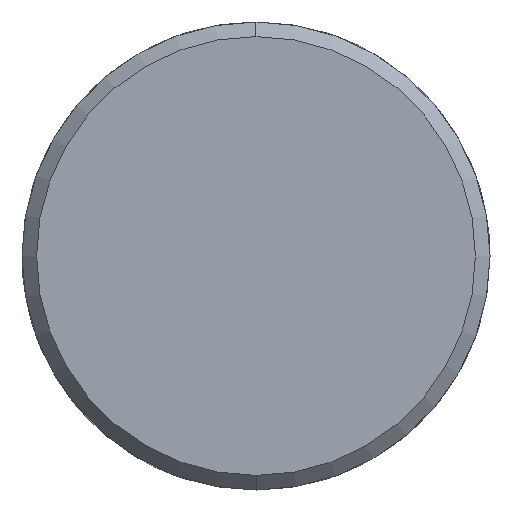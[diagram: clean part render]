
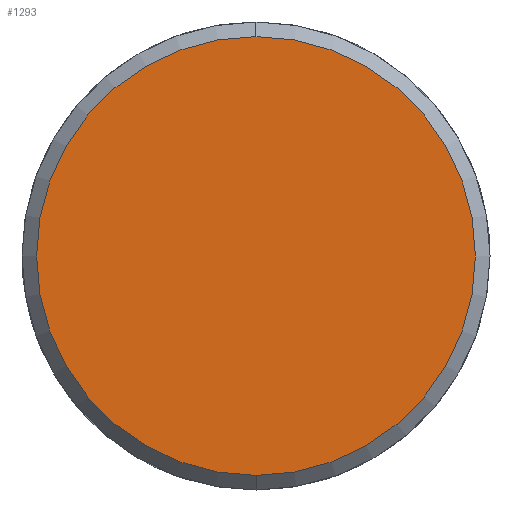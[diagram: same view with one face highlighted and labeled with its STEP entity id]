
A CAD part, left-side view. The second image highlights one B-rep face of the part: STEP entity #1293.
In plain terms, the highlighted planar face has unit normal (-1, 0, 0).
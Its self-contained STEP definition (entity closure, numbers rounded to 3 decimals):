
#1225=CARTESIAN_POINT('Vertex',(-6.,0.,-15.)) ;
#1228=CARTESIAN_POINT('Axis2P3D Location',(-6.,0.,0.)) ;
#1232=CARTESIAN_POINT('Vertex',(-6.,15.,0.)) ;
#1235=CARTESIAN_POINT('Axis2P3D Location',(-6.,0.,0.)) ;
#1239=CARTESIAN_POINT('Vertex',(-6.,0.,15.)) ;
#1261=CARTESIAN_POINT('Axis2P3D Location',(-6.,0.,0.)) ;
#1265=CARTESIAN_POINT('Vertex',(-6.,-15.,0.)) ;
#1268=CARTESIAN_POINT('Axis2P3D Location',(-6.,0.,0.)) ;
#1282=CARTESIAN_POINT('Axis2P3D Location',(-6.,0.,0.)) ;
#1229=DIRECTION('Axis2P3D Direction',(1.,0.,-0.)) ;
#1236=DIRECTION('Axis2P3D Direction',(1.,0.,-0.)) ;
#1262=DIRECTION('Axis2P3D Direction',(1.,0.,-0.)) ;
#1269=DIRECTION('Axis2P3D Direction',(1.,0.,-0.)) ;
#1283=DIRECTION('Axis2P3D Direction',(1.,0.,-0.)) ;
#1284=DIRECTION('Axis2P3D XDirection',(-0.,0.,-1.)) ;
#1230=AXIS2_PLACEMENT_3D('Circle Axis2P3D',#1228,#1229,$) ;
#1237=AXIS2_PLACEMENT_3D('Circle Axis2P3D',#1235,#1236,$) ;
#1263=AXIS2_PLACEMENT_3D('Circle Axis2P3D',#1261,#1262,$) ;
#1270=AXIS2_PLACEMENT_3D('Circle Axis2P3D',#1268,#1269,$) ;
#1285=AXIS2_PLACEMENT_3D('Plane Axis2P3D',#1282,#1283,#1284) ;
#1288=ORIENTED_EDGE('',*,*,#1234,.F.) ;
#1289=ORIENTED_EDGE('',*,*,#1272,.F.) ;
#1290=ORIENTED_EDGE('',*,*,#1267,.F.) ;
#1291=ORIENTED_EDGE('',*,*,#1241,.F.) ;
#1293=ADVANCED_FACE('351-20X26X90',(#1292),#1286,.F.) ;
#1231=CIRCLE('generated circle',#1230,15.) ;
#1238=CIRCLE('generated circle',#1237,15.) ;
#1264=CIRCLE('generated circle',#1263,15.) ;
#1271=CIRCLE('generated circle',#1270,15.) ;
#1234=EDGE_CURVE('',#1226,#1233,#1231,.T.) ;
#1241=EDGE_CURVE('',#1233,#1240,#1238,.T.) ;
#1267=EDGE_CURVE('',#1240,#1266,#1264,.T.) ;
#1272=EDGE_CURVE('',#1266,#1226,#1271,.T.) ;
#1287=EDGE_LOOP('',(#1288,#1289,#1290,#1291)) ;
#1292=FACE_OUTER_BOUND('',#1287,.T.) ;
#1286=PLANE('Plane',#1285) ;
#1226=VERTEX_POINT('',#1225) ;
#1233=VERTEX_POINT('',#1232) ;
#1240=VERTEX_POINT('',#1239) ;
#1266=VERTEX_POINT('',#1265) ;
